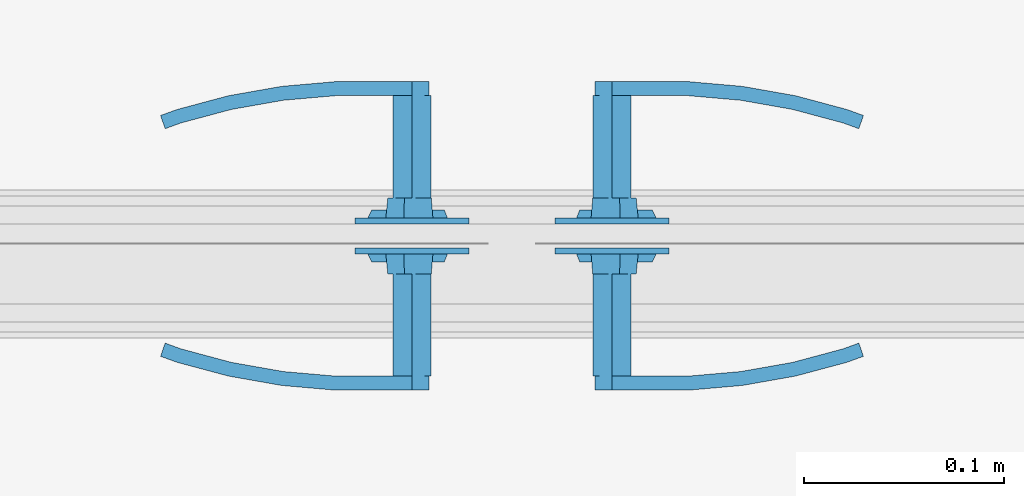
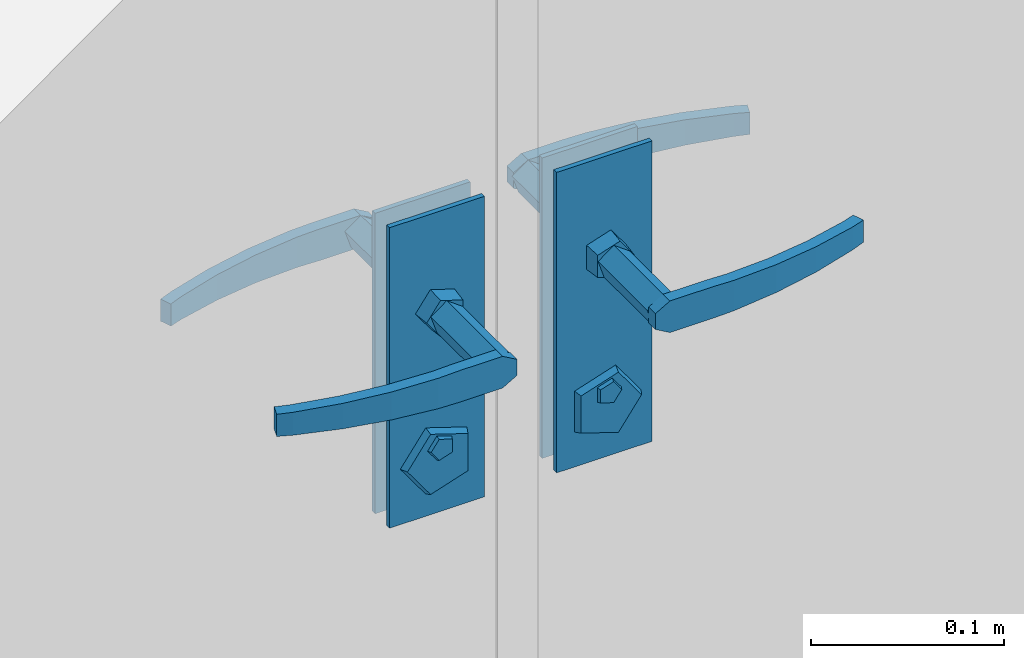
# One storey, part 55 of 62: 1 building element part, 2 elements without a shape of their own.
"""IFC2X3 building model written with IfcOpenShell, lengths in millimetres."""

from ifc_helpers import new_model, entity, si_unit, converted_unit, derived_unit, money_unit, direction, frame, origin_with_axes, place, context, subcontext, project, spatial, open_shell, faceted_brep, surface_model, material, type_object, element, aggregate, save


model = new_model("IFC2X3")

# Units and contexts
model_context = context("Model", 3, precision=0.01, world=origin_with_axes(), true_north=direction((0.0, 1.0)))
body_context = subcontext(model_context, "Body", "Model", "MODEL_VIEW")
ifc_project = project(units=[si_unit("LENGTHUNIT", "METRE", prefix="MILLI"), si_unit("AREAUNIT", "SQUARE_METRE"), si_unit("VOLUMEUNIT", "CUBIC_METRE"), converted_unit("PLANEANGLEUNIT", "DEGREE", entity("IfcPlaneAngleMeasure", 0.0174532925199), si_unit("PLANEANGLEUNIT", "RADIAN"), dimensions=[0, 0, 0, 0, 0, 0, 0]), si_unit("SOLIDANGLEUNIT", "STERADIAN"), money_unit("EUR"), converted_unit("TIMEUNIT", "Year", entity("IfcTimeMeasure", 31556926.0), si_unit("TIMEUNIT", "SECOND"), dimensions=[0, 0, 1, 0, 0, 0, 0]), si_unit("MASSUNIT", "GRAM", prefix="KILO"), si_unit("THERMODYNAMICTEMPERATUREUNIT", "DEGREE_CELSIUS"), si_unit("LUMINOUSINTENSITYUNIT", "LUMEN"), si_unit("ENERGYUNIT", "JOULE", prefix="MEGA"), derived_unit("THERMALCONDUCTANCEUNIT", [(si_unit("POWERUNIT", "WATT"), 1), (si_unit("LENGTHUNIT", "METRE"), -1), (si_unit("THERMODYNAMICTEMPERATUREUNIT", "KELVIN"), -1)]), derived_unit("SPECIFICHEATCAPACITYUNIT", [(si_unit("ENERGYUNIT", "JOULE"), 1), (si_unit("MASSUNIT", "GRAM", prefix="KILO"), -1), (si_unit("THERMODYNAMICTEMPERATUREUNIT", "KELVIN"), -1)]), derived_unit("MASSDENSITYUNIT", [(si_unit("MASSUNIT", "GRAM", prefix="KILO"), 1), (si_unit("VOLUMEUNIT", "CUBIC_METRE"), -1)])], contexts=[model_context])

# Site, building, storey
site_placement = place(None, origin_with_axes())
site = spatial("IfcSite", under=ifc_project, at=site_placement, Name="Puškini 31, Narva", CompositionType="ELEMENT")
building_placement = place(site_placement, origin_with_axes())
building = spatial("IfcBuilding", under=site, at=building_placement, Name="Narva Riigigümnaasium", CompositionType="ELEMENT")
storey_placement = place(building_placement, frame((0.0, 0.0, 660.0), z_axis=(0.0, 0.0, 1.0), x_axis=(1.0, 0.0, 0.0)))
storey = spatial("IfcBuildingStorey", under=building, at=storey_placement, Name="2.korrus +0.66", CompositionType="ELEMENT", Elevation=660.0)

# Curtain wall, door, building element part
curtain_wall_type = type_object("IfcCurtainWallType", Name="Curtain Wall Type", PredefinedType="NOTDEFINED")
curtain_wall_placement = place(storey_placement, frame((45089.2571373, 223837.000216, -1.99739158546e-06), z_axis=(0.0, 0.0, 1.0), x_axis=(1.0, 0.0, 0.0)))
curtain_wall = element("IfcCurtainWall", 1, at=curtain_wall_placement, inside=storey, type_object=curtain_wall_type, Name="G-SKLF-52")
door_style = type_object("IfcDoorStyle", Name="1949 x 2365 x 20", ConstructionType="NOTDEFINED", OperationType="NOTDEFINED", ParameterTakesPrecedence=False, Sizeable=False)
door_placement = place(curtain_wall_placement, frame((1421.14285627, 0.0, 1200.0), z_axis=(0.0, 0.0, 1.0), x_axis=(1.0, 0.0, 0.0)))
door = element("IfcDoor", 2, at=door_placement, type_object=door_style, Name="G-SKLF-52-U1", ObjectType="DOOR")
aggregate(curtain_wall, [door])
ifc_material = material(Name="ET-07_Teras - Roostevaba")
building_element_part_placement = place(door_placement, origin_with_axes())
building_element_part = element("IfcBuildingElementPart", 3, at=building_element_part_placement, material=ifc_material, Name="ET-07_Teras - Roostevaba", context=body_context, shape_type="SurfaceModel", body=[
    faceted_brep([(6.49998927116, 8.00000000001, -120.0), (6.49998927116, 5.0, -120.0), (63.4999892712, 5.0, -120.0), (63.4999892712, 8.00000000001, -120.0), (6.49998927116, 8.00000000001, -310.0), (6.49998927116, 5.0, -310.0), (63.4999892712, 5.0, -310.0), (63.4999892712, 8.00000000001, -310.0)], [[[0, 1, 2, 3]], [[4, 5, 1, 0]], [[1, 5, 6, 2]], [[3, 2, 6, 7]], [[0, 3, 7, 4]], [[7, 6, 5, 4]]]),
    surface_model("IfcShellBasedSurfaceModel", [(34.9999892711, -56.0, -190.0), (34.9999892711, -63.0, -190.0), (26.3397352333, -63.0, -185.0), (26.3397352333, -56.0, -185.0), (59.9999892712, -56.0, -190.0), (59.9999892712, -63.0, -190.0), (59.9999892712, -63.0, -170.0), (34.9999892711, -63.0, -170.0), (26.3397352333, -63.0, -175.0), (26.3397352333, -56.0, -175.0), (34.9999892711, -56.0, -170.0), (59.9999892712, -56.0, -170.0)], [open_shell([[[0, 1, 2, 3]], [[4, 5, 1, 0]], [[1, 5, 6, 7, 8, 2]], [[3, 2, 8, 9]], [[0, 3, 9, 10, 11, 4]], [[10, 7, 6, 11]], [[9, 8, 7, 10]]])]),
    surface_model("IfcShellBasedSurfaceModel", [(59.9999892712, -56.0, -170.0), (73.4038987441, -63.0, -170.392699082), (73.0982721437, -56.0, -170.392699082), (59.9999892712, -63.0, -170.0), (100.109705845, -60.6635446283, -171.178097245), (73.0982721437, -56.0, -189.607300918), (59.9999892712, -56.0, -190.0), (59.9999892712, -63.0, -190.0), (73.4038987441, -63.0, -189.607300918), (100.109705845, -60.6635446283, -188.821902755), (99.1951520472, -53.716818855, -171.178097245), (99.1951520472, -53.716818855, -188.821902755), (126.510253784, -56.0084157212, -188.036504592), (126.510253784, -56.0084157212, -171.963495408), (124.993733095, -49.1678329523, -171.963495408), (124.993733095, -49.1678329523, -188.036504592), (152.404618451, -49.0700416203, -187.251106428), (152.404618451, -49.0700416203, -172.748893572), (150.297672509, -42.3876628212, -172.748893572), (150.297672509, -42.3876628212, -187.251106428), (160.461193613, -46.1376880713, -187.0), (160.461193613, -46.1376880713, -173.0), (158.17054726, -39.5221707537, -173.0), (158.17054726, -39.5221707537, -187.0)], [open_shell([[[0, 1, 2]], [[0, 3, 1]], [[2, 1, 4]], [[0, 2, 5, 6]], [[3, 7, 8, 1]], [[1, 8, 9, 4]], [[2, 4, 10]], [[2, 10, 11, 5]], [[5, 7, 6]], [[5, 8, 7]], [[11, 9, 8]], [[4, 9, 12, 13]], [[10, 4, 13]], [[10, 14, 15, 11]], [[11, 8, 5]], [[15, 9, 11]], [[15, 12, 9]], [[13, 12, 16, 17]], [[10, 13, 14]], [[14, 18, 19, 15]], [[19, 12, 15]], [[19, 16, 12]], [[17, 16, 20, 21]], [[14, 13, 17]], [[14, 17, 18]], [[18, 22, 23, 19]], [[23, 16, 19]], [[23, 20, 16]], [[22, 21, 20, 23]], [[18, 17, 21]], [[18, 21, 22]]])]),
    faceted_brep([(38.7081932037, -5.0, -191.412678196), (39.017210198, 5.0, -192.363734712), (47.9999892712, 5.0, -180.0), (46.9999892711, -5.0, -180.0), (25.2917853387, -5.0, -187.053423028), (24.4827683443, 5.0, -187.64120828), (24.4827683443, 5.0, -172.35879172), (39.017210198, 5.0, -167.636265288), (38.7081932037, -5.0, -168.587321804), (25.2917853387, -5.0, -172.946576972)], [[[0, 1, 2, 3]], [[4, 5, 1, 0]], [[2, 1, 5, 6, 7]], [[3, 2, 7, 8]], [[3, 8, 9, 4, 0]], [[9, 6, 5, 4]], [[8, 7, 6, 9]]]),
    faceted_brep([(41.1803291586, 1.0, -294.021130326), (41.7983631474, 5.0, -295.923243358), (56.9999892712, 5.0, -275.0), (54.9999892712, 1.0, -275.0), (18.8196493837, 1.0, -286.755705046), (17.2016153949, 5.0, -287.93127555), (17.2016153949, 5.0, -262.06872445), (41.7983631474, 5.0, -254.076756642), (41.1803291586, 1.0, -255.978869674), (18.8196493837, 1.0, -263.244294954)], [[[0, 1, 2, 3]], [[4, 5, 1, 0]], [[2, 1, 5, 6, 7]], [[3, 2, 7, 8]], [[3, 8, 9, 4, 0]], [[9, 6, 5, 4]], [[8, 7, 6, 9]]]),
    faceted_brep([(37.1631082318, -1.0, -272.657395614), (37.4721252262, 1.0, -273.60845213), (42.9999892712, 1.0, -266.0), (41.9999892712, -1.0, -266.0), (29.3368703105, -1.0, -270.114496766), (28.5278533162, 1.0, -270.702282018), (28.5278533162, 1.0, -261.297717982), (37.4721252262, 1.0, -258.39154787), (37.1631082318, -1.0, -259.342604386), (29.3368703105, -1.0, -261.885503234)], [[[0, 1, 2, 3]], [[4, 5, 1, 0]], [[2, 1, 5, 6, 7]], [[3, 2, 7, 8]], [[3, 8, 9, 4, 0]], [[9, 6, 5, 4]], [[8, 7, 6, 9]]]),
    faceted_brep([(34.9999892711, -5.0, -170.0), (34.9999892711, -56.0, -170.0), (44.5105544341, -56.0, -176.909830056), (44.5105544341, -5.0, -176.909830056), (25.4894241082, -5.0, -176.909830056), (25.4894241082, -56.0, -176.909830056), (29.1221367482, -56.0, -188.090169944), (40.8778417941, -56.0, -188.090169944), (40.8778417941, -5.0, -188.090169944), (29.1221367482, -5.0, -188.090169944)], [[[0, 1, 2, 3]], [[4, 5, 1, 0]], [[1, 5, 6, 7, 2]], [[3, 2, 7, 8]], [[0, 3, 8, 9, 4]], [[9, 6, 5, 4]], [[8, 7, 6, 9]]]),
    faceted_brep([(6.49998927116, 20.0, -120.0), (63.4999892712, 20.0, -120.0), (63.4999892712, 23.0, -120.0), (6.49998927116, 23.0, -120.0), (6.49998927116, 20.0, -310.0), (63.4999892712, 20.0, -310.0), (63.4999892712, 23.0, -310.0), (6.49998927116, 23.0, -310.0)], [[[0, 1, 2, 3]], [[0, 4, 5, 1]], [[1, 5, 6, 2]], [[3, 2, 6, 7]], [[4, 0, 3, 7]], [[5, 4, 7, 6]]]),
    surface_model("IfcShellBasedSurfaceModel", [(34.9999892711, 84.0, -190.0), (26.3397352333, 84.0, -185.0), (26.3397352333, 91.0, -185.0), (34.9999892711, 91.0, -190.0), (59.9999892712, 84.0, -190.0), (59.9999892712, 84.0, -170.0), (34.9999892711, 84.0, -170.0), (26.3397352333, 84.0, -175.0), (26.3397352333, 91.0, -175.0), (34.9999892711, 91.0, -170.0), (59.9999892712, 91.0, -170.0), (59.9999892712, 91.0, -190.0)], [open_shell([[[0, 1, 2, 3]], [[0, 4, 5, 6, 7, 1]], [[1, 7, 8, 2]], [[3, 2, 8, 9, 10, 11]], [[4, 0, 3, 11]], [[6, 5, 10, 9]], [[7, 6, 9, 8]]])]),
    surface_model("IfcShellBasedSurfaceModel", [(59.9999892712, 84.0, -170.0), (73.0982721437, 84.0, -170.392699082), (73.4038987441, 91.0, -170.392699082), (59.9999892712, 84.0, -190.0), (73.0982721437, 84.0, -189.607300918), (100.109705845, 88.6635446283, -171.178097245), (59.9999892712, 91.0, -170.0), (59.9999892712, 91.0, -190.0), (99.1951520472, 81.7168188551, -188.821902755), (99.1951520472, 81.7168188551, -171.178097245), (100.109705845, 88.6635446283, -188.821902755), (73.4038987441, 91.0, -189.607300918), (124.993733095, 77.1678329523, -188.036504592), (124.993733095, 77.1678329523, -171.963495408), (126.510253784, 84.0084157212, -171.963495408), (126.510253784, 84.0084157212, -188.036504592), (150.297672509, 70.3876628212, -187.251106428), (150.297672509, 70.3876628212, -172.748893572), (152.404618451, 77.0700416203, -172.748893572), (152.404618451, 77.0700416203, -187.251106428), (158.17054726, 67.5221707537, -187.0), (158.17054726, 67.5221707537, -173.0), (160.461193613, 74.1376880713, -173.0), (160.461193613, 74.1376880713, -187.0)], [open_shell([[[0, 1, 2]], [[0, 3, 4, 1]], [[1, 5, 2]], [[0, 2, 6]], [[4, 3, 7]], [[1, 4, 8, 9]], [[1, 9, 5]], [[2, 5, 10, 11]], [[6, 2, 11, 7]], [[4, 7, 11]], [[8, 4, 11]], [[9, 8, 12, 13]], [[9, 14, 5]], [[5, 14, 15, 10]], [[8, 11, 10]], [[12, 8, 10]], [[13, 12, 16, 17]], [[9, 13, 14]], [[14, 18, 19, 15]], [[12, 10, 15]], [[16, 12, 15]], [[17, 16, 20, 21]], [[13, 17, 18]], [[13, 18, 14]], [[18, 22, 23, 19]], [[16, 15, 19]], [[20, 16, 19]], [[21, 20, 23, 22]], [[17, 21, 22]], [[17, 22, 18]], [[20, 19, 23]]])]),
    faceted_brep([(38.7081932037, 33.0, -191.412678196), (46.9999892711, 33.0, -180.0), (47.9999892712, 23.0, -180.0), (39.017210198, 23.0, -192.363734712), (25.2917853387, 33.0, -187.053423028), (25.2917853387, 33.0, -172.946576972), (38.7081932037, 33.0, -168.587321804), (39.017210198, 23.0, -167.636265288), (24.4827683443, 23.0, -172.35879172), (24.4827683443, 23.0, -187.64120828)], [[[0, 1, 2, 3]], [[1, 0, 4, 5, 6]], [[1, 6, 7, 2]], [[2, 7, 8, 9, 3]], [[4, 0, 3, 9]], [[5, 4, 9, 8]], [[6, 5, 8, 7]]]),
    faceted_brep([(41.1803291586, 27.0, -294.021130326), (54.9999892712, 27.0, -275.0), (56.9999892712, 23.0, -275.0), (41.7983631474, 23.0, -295.923243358), (18.8196493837, 27.0, -286.755705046), (18.8196493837, 27.0, -263.244294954), (41.1803291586, 27.0, -255.978869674), (41.7983631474, 23.0, -254.076756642), (17.2016153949, 23.0, -262.06872445), (17.2016153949, 23.0, -287.93127555)], [[[0, 1, 2, 3]], [[1, 0, 4, 5, 6]], [[1, 6, 7, 2]], [[2, 7, 8, 9, 3]], [[4, 0, 3, 9]], [[5, 4, 9, 8]], [[6, 5, 8, 7]]]),
    faceted_brep([(37.1631082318, 29.0, -272.657395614), (41.9999892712, 29.0, -266.0), (42.9999892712, 27.0, -266.0), (37.4721252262, 27.0, -273.60845213), (29.3368703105, 29.0, -270.114496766), (29.3368703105, 29.0, -261.885503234), (37.1631082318, 29.0, -259.342604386), (37.4721252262, 27.0, -258.39154787), (28.5278533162, 27.0, -261.297717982), (28.5278533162, 27.0, -270.702282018)], [[[0, 1, 2, 3]], [[1, 0, 4, 5, 6]], [[1, 6, 7, 2]], [[2, 7, 8, 9, 3]], [[4, 0, 3, 9]], [[5, 4, 9, 8]], [[6, 5, 8, 7]]]),
    faceted_brep([(34.9999892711, 33.0, -170.0), (44.5105544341, 33.0, -176.909830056), (44.5105544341, 84.0, -176.909830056), (34.9999892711, 84.0, -170.0), (25.4894241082, 33.0, -176.909830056), (29.1221367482, 33.0, -188.090169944), (40.8778417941, 33.0, -188.090169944), (40.8778417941, 84.0, -188.090169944), (29.1221367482, 84.0, -188.090169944), (25.4894241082, 84.0, -176.909830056)], [[[0, 1, 2, 3]], [[0, 4, 5, 6, 1]], [[1, 6, 7, 2]], [[3, 2, 7, 8, 9]], [[4, 0, 3, 9]], [[5, 4, 9, 8]], [[6, 5, 8, 7]]]),
    faceted_brep([(-36.5000107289, 8.00000000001, -120.0), (-93.5000107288, 8.00000000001, -120.0), (-93.5000107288, 5.0, -120.0), (-36.5000107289, 5.0, -120.0), (-36.5000107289, 8.00000000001, -310.0), (-93.5000107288, 8.00000000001, -310.0), (-93.5000107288, 5.0, -310.0), (-36.5000107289, 5.0, -310.0)], [[[0, 1, 2, 3]], [[0, 4, 5, 1]], [[1, 5, 6, 2]], [[3, 2, 6, 7]], [[4, 0, 3, 7]], [[5, 4, 7, 6]]]),
    surface_model("IfcShellBasedSurfaceModel", [(-65.0000107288, -56.0, -190.0), (-56.339756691, -56.0, -185.0), (-56.339756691, -63.0, -185.0), (-65.0000107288, -63.0, -190.0), (-90.0000107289, -56.0, -190.0), (-90.0000107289, -56.0, -170.0), (-65.0000107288, -56.0, -170.0), (-56.339756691, -56.0, -175.0), (-56.339756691, -63.0, -175.0), (-65.0000107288, -63.0, -170.0), (-90.0000107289, -63.0, -170.0), (-90.0000107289, -63.0, -190.0)], [open_shell([[[0, 1, 2, 3]], [[0, 4, 5, 6, 7, 1]], [[1, 7, 8, 2]], [[3, 2, 8, 9, 10, 11]], [[4, 0, 3, 11]], [[6, 5, 10, 9]], [[7, 6, 9, 8]]])]),
    surface_model("IfcShellBasedSurfaceModel", [(-90.0000107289, -56.0, -170.0), (-103.098293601, -56.0, -170.392699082), (-103.403920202, -63.0, -170.392699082), (-90.0000107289, -56.0, -190.0), (-103.098293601, -56.0, -189.607300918), (-130.109727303, -60.6635446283, -171.178097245), (-90.0000107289, -63.0, -170.0), (-90.0000107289, -63.0, -190.0), (-129.195173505, -53.716818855, -188.821902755), (-129.195173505, -53.716818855, -171.178097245), (-130.109727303, -60.6635446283, -188.821902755), (-103.403920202, -63.0, -189.607300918), (-154.993754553, -49.1678329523, -188.036504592), (-154.993754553, -49.1678329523, -171.963495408), (-156.510275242, -56.0084157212, -171.963495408), (-156.510275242, -56.0084157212, -188.036504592), (-180.297693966, -42.3876628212, -187.251106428), (-180.297693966, -42.3876628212, -172.748893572), (-182.404639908, -49.0700416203, -172.748893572), (-182.404639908, -49.0700416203, -187.251106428), (-188.170568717, -39.5221707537, -187.0), (-188.170568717, -39.5221707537, -173.0), (-190.46121507, -46.1376880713, -173.0), (-190.46121507, -46.1376880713, -187.0)], [open_shell([[[0, 1, 2]], [[0, 3, 4, 1]], [[1, 5, 2]], [[0, 2, 6]], [[4, 3, 7]], [[1, 4, 8, 9]], [[1, 9, 5]], [[2, 5, 10, 11]], [[6, 2, 11, 7]], [[4, 7, 11]], [[8, 4, 11]], [[9, 8, 12, 13]], [[9, 14, 5]], [[5, 14, 15, 10]], [[8, 11, 10]], [[12, 8, 10]], [[13, 12, 16, 17]], [[9, 13, 14]], [[14, 18, 19, 15]], [[12, 10, 15]], [[16, 12, 15]], [[17, 16, 20, 21]], [[13, 17, 18]], [[13, 18, 14]], [[18, 22, 23, 19]], [[16, 15, 19]], [[20, 16, 19]], [[21, 20, 23, 22]], [[17, 21, 22]], [[17, 22, 18]], [[20, 19, 23]]])]),
    faceted_brep([(-68.7082146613, -5.0, -191.412678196), (-77.0000107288, -5.0, -180.0), (-78.0000107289, 5.0, -180.0), (-69.0172316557, 5.0, -192.363734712), (-55.2918067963, -5.0, -187.053423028), (-55.2918067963, -5.0, -172.946576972), (-68.7082146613, -5.0, -168.587321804), (-69.0172316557, 5.0, -167.636265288), (-54.482789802, 5.0, -172.35879172), (-54.482789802, 5.0, -187.64120828)], [[[0, 1, 2, 3]], [[1, 0, 4, 5, 6]], [[1, 6, 7, 2]], [[2, 7, 8, 9, 3]], [[4, 0, 3, 9]], [[5, 4, 9, 8]], [[6, 5, 8, 7]]]),
    faceted_brep([(-71.1803506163, 1.0, -294.021130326), (-85.0000107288, 1.0, -275.0), (-87.0000107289, 5.0, -275.0), (-71.7983846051, 5.0, -295.923243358), (-48.8196708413, 1.0, -286.755705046), (-48.8196708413, 1.0, -263.244294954), (-71.1803506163, 1.0, -255.978869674), (-71.7983846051, 5.0, -254.076756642), (-47.2016368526, 5.0, -262.06872445), (-47.2016368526, 5.0, -287.93127555)], [[[0, 1, 2, 3]], [[1, 0, 4, 5, 6]], [[1, 6, 7, 2]], [[2, 7, 8, 9, 3]], [[4, 0, 3, 9]], [[5, 4, 9, 8]], [[6, 5, 8, 7]]]),
    faceted_brep([(-67.1631296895, -1.0, -272.657395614), (-72.0000107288, -1.0, -266.0), (-73.0000107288, 1.0, -266.0), (-67.4721466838, 1.0, -273.60845213), (-59.3368917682, -1.0, -270.114496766), (-59.3368917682, -1.0, -261.885503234), (-67.1631296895, -1.0, -259.342604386), (-67.4721466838, 1.0, -258.39154787), (-58.5278747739, 1.0, -261.297717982), (-58.5278747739, 1.0, -270.702282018)], [[[0, 1, 2, 3]], [[1, 0, 4, 5, 6]], [[1, 6, 7, 2]], [[2, 7, 8, 9, 3]], [[4, 0, 3, 9]], [[5, 4, 9, 8]], [[6, 5, 8, 7]]]),
    faceted_brep([(-65.0000107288, -5.0, -170.0), (-74.5105758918, -5.0, -176.909830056), (-74.5105758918, -56.0, -176.909830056), (-65.0000107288, -56.0, -170.0), (-55.4894455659, -5.0, -176.909830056), (-59.1221582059, -5.0, -188.090169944), (-70.8778632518, -5.0, -188.090169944), (-70.8778632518, -56.0, -188.090169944), (-59.1221582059, -56.0, -188.090169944), (-55.4894455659, -56.0, -176.909830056)], [[[0, 1, 2, 3]], [[0, 4, 5, 6, 1]], [[1, 6, 7, 2]], [[3, 2, 7, 8, 9]], [[4, 0, 3, 9]], [[5, 4, 9, 8]], [[6, 5, 8, 7]]]),
    faceted_brep([(-36.5000107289, 20.0, -120.0), (-36.5000107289, 23.0, -120.0), (-93.5000107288, 23.0, -120.0), (-93.5000107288, 20.0, -120.0), (-36.5000107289, 20.0, -310.0), (-36.5000107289, 23.0, -310.0), (-93.5000107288, 23.0, -310.0), (-93.5000107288, 20.0, -310.0)], [[[0, 1, 2, 3]], [[4, 5, 1, 0]], [[1, 5, 6, 2]], [[3, 2, 6, 7]], [[0, 3, 7, 4]], [[7, 6, 5, 4]]]),
    surface_model("IfcShellBasedSurfaceModel", [(-65.0000107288, 84.0, -190.0), (-65.0000107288, 91.0, -190.0), (-56.339756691, 91.0, -185.0), (-56.339756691, 84.0, -185.0), (-90.0000107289, 84.0, -190.0), (-90.0000107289, 91.0, -190.0), (-90.0000107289, 91.0, -170.0), (-65.0000107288, 91.0, -170.0), (-56.339756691, 91.0, -175.0), (-56.339756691, 84.0, -175.0), (-65.0000107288, 84.0, -170.0), (-90.0000107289, 84.0, -170.0)], [open_shell([[[0, 1, 2, 3]], [[4, 5, 1, 0]], [[1, 5, 6, 7, 8, 2]], [[3, 2, 8, 9]], [[0, 3, 9, 10, 11, 4]], [[10, 7, 6, 11]], [[9, 8, 7, 10]]])]),
    surface_model("IfcShellBasedSurfaceModel", [(-90.0000107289, 84.0, -170.0), (-103.403920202, 91.0, -170.392699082), (-103.098293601, 84.0, -170.392699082), (-90.0000107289, 91.0, -170.0), (-130.109727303, 88.6635446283, -171.178097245), (-103.098293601, 84.0, -189.607300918), (-90.0000107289, 84.0, -190.0), (-90.0000107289, 91.0, -190.0), (-103.403920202, 91.0, -189.607300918), (-130.109727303, 88.6635446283, -188.821902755), (-129.195173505, 81.7168188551, -171.178097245), (-129.195173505, 81.7168188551, -188.821902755), (-156.510275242, 84.0084157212, -188.036504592), (-156.510275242, 84.0084157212, -171.963495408), (-154.993754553, 77.1678329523, -171.963495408), (-154.993754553, 77.1678329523, -188.036504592), (-182.404639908, 77.0700416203, -187.251106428), (-182.404639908, 77.0700416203, -172.748893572), (-180.297693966, 70.3876628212, -172.748893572), (-180.297693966, 70.3876628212, -187.251106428), (-190.46121507, 74.1376880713, -187.0), (-190.46121507, 74.1376880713, -173.0), (-188.170568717, 67.5221707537, -173.0), (-188.170568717, 67.5221707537, -187.0)], [open_shell([[[0, 1, 2]], [[0, 3, 1]], [[2, 1, 4]], [[0, 2, 5, 6]], [[3, 7, 8, 1]], [[1, 8, 9, 4]], [[2, 4, 10]], [[2, 10, 11, 5]], [[5, 7, 6]], [[5, 8, 7]], [[11, 9, 8]], [[4, 9, 12, 13]], [[10, 4, 13]], [[10, 14, 15, 11]], [[11, 8, 5]], [[15, 9, 11]], [[15, 12, 9]], [[13, 12, 16, 17]], [[10, 13, 14]], [[14, 18, 19, 15]], [[19, 12, 15]], [[19, 16, 12]], [[17, 16, 20, 21]], [[14, 13, 17]], [[14, 17, 18]], [[18, 22, 23, 19]], [[23, 16, 19]], [[23, 20, 16]], [[22, 21, 20, 23]], [[18, 17, 21]], [[18, 21, 22]]])]),
    faceted_brep([(-68.7082146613, 33.0, -191.412678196), (-69.0172316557, 23.0, -192.363734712), (-78.0000107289, 23.0, -180.0), (-77.0000107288, 33.0, -180.0), (-55.2918067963, 33.0, -187.053423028), (-54.482789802, 23.0, -187.64120828), (-54.482789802, 23.0, -172.35879172), (-69.0172316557, 23.0, -167.636265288), (-68.7082146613, 33.0, -168.587321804), (-55.2918067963, 33.0, -172.946576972)], [[[0, 1, 2, 3]], [[4, 5, 1, 0]], [[2, 1, 5, 6, 7]], [[3, 2, 7, 8]], [[3, 8, 9, 4, 0]], [[9, 6, 5, 4]], [[8, 7, 6, 9]]]),
    faceted_brep([(-71.1803506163, 27.0, -294.021130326), (-71.7983846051, 23.0, -295.923243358), (-87.0000107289, 23.0, -275.0), (-85.0000107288, 27.0, -275.0), (-48.8196708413, 27.0, -286.755705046), (-47.2016368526, 23.0, -287.93127555), (-47.2016368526, 23.0, -262.06872445), (-71.7983846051, 23.0, -254.076756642), (-71.1803506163, 27.0, -255.978869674), (-48.8196708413, 27.0, -263.244294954)], [[[0, 1, 2, 3]], [[4, 5, 1, 0]], [[2, 1, 5, 6, 7]], [[3, 2, 7, 8]], [[3, 8, 9, 4, 0]], [[9, 6, 5, 4]], [[8, 7, 6, 9]]]),
    faceted_brep([(-67.1631296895, 29.0, -272.657395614), (-67.4721466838, 27.0, -273.60845213), (-73.0000107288, 27.0, -266.0), (-72.0000107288, 29.0, -266.0), (-59.3368917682, 29.0, -270.114496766), (-58.5278747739, 27.0, -270.702282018), (-58.5278747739, 27.0, -261.297717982), (-67.4721466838, 27.0, -258.39154787), (-67.1631296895, 29.0, -259.342604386), (-59.3368917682, 29.0, -261.885503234)], [[[0, 1, 2, 3]], [[4, 5, 1, 0]], [[2, 1, 5, 6, 7]], [[3, 2, 7, 8]], [[3, 8, 9, 4, 0]], [[9, 6, 5, 4]], [[8, 7, 6, 9]]]),
    faceted_brep([(-65.0000107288, 33.0, -170.0), (-65.0000107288, 84.0, -170.0), (-74.5105758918, 84.0, -176.909830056), (-74.5105758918, 33.0, -176.909830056), (-55.4894455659, 33.0, -176.909830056), (-55.4894455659, 84.0, -176.909830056), (-59.1221582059, 84.0, -188.090169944), (-70.8778632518, 84.0, -188.090169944), (-70.8778632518, 33.0, -188.090169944), (-59.1221582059, 33.0, -188.090169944)], [[[0, 1, 2, 3]], [[4, 5, 1, 0]], [[1, 5, 6, 7, 2]], [[3, 2, 7, 8]], [[0, 3, 8, 9, 4]], [[9, 6, 5, 4]], [[8, 7, 6, 9]]]),
])
aggregate(door, [building_element_part])

save(model, "model.ifc")
